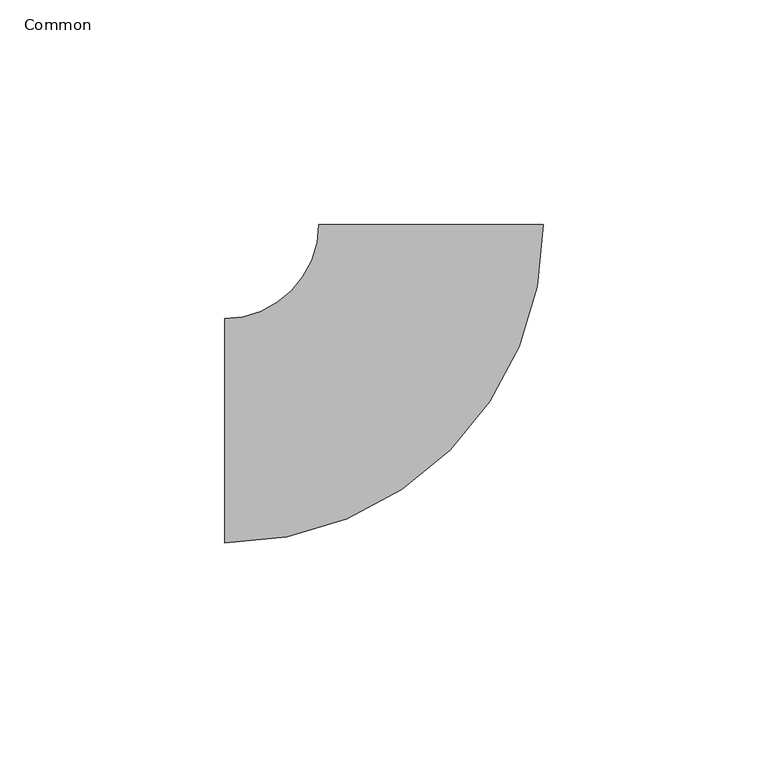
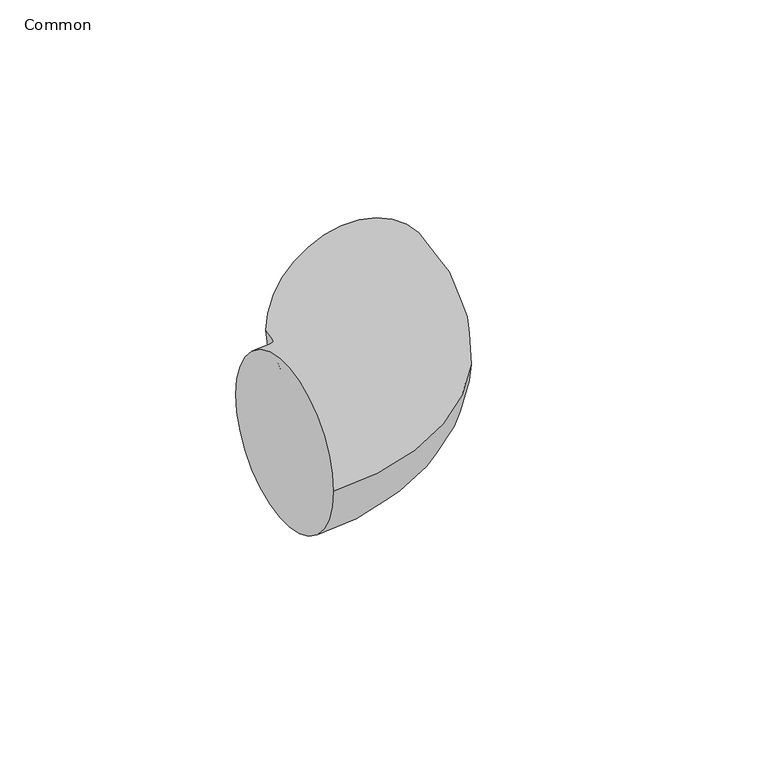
"""IFC4 building model written with IfcOpenShell, lengths in millimetres: pipe fitting geometry, 011_エルボ : Common."""

from ifc_helpers import new_model, si_unit, point, frame, origin, place, context, project, spatial, circle_curve, ellipse_curve, trimmed, source, transform, mapped, element, save
from ifc_brep_helpers import plane_surface, revolved_surface, advanced_brep


def common_ebbcb540(model_context):
    return source(origin(), model_context, "Body", "AdvancedBrep", [
        advanced_brep(
        [(-46.0, -25.0, 0.0), (-46.0, 25.0, 0.0), (25.0, 46.0, 0.0), (-25.0, 46.0, 0.0)],
        [
            (0, 1, circle_curve(frame((-46.0, 0.0, 0.0), z_axis=(-1.0, 0.0, 0.0), x_axis=(0.0, 1.0, 0.0)), 25.0)),
            (1, 0, circle_curve(frame((-46.0, 0.0, 0.0), z_axis=(-1.0, 0.0, 0.0), x_axis=(0.0, 1.0, 0.0)), 25.0)),
            (2, 3, circle_curve(frame((0.0, 46.0, 0.0), z_axis=(0.0, 1.0, 0.0), x_axis=(-1.0, 0.0, 0.0)), 25.0)),
            (3, 2, circle_curve(frame((0.0, 46.0, 0.0), z_axis=(0.0, 1.0, 0.0), x_axis=(-1.0, 0.0, 0.0)), 25.0)),
            (3, 1, circle_curve(frame((-46.0, 46.0, 0.0), z_axis=(0.0, 0.0, -1.0), x_axis=(0.0, -1.0, 0.0)), 21.0)),
            (0, 2, circle_curve(frame((-46.0, 46.0, 0.0), z_axis=(0.0, 0.0, 1.0), x_axis=(0.0, -1.0, 0.0)), 71.0)),
        ],
        [
            plane_surface(frame((-46.0, 0.0, 0.0), z_axis=(-1.0, 0.0, 0.0), x_axis=(0.0, 0.0, 1.0))),
            plane_surface(frame((0.0, 46.0, 0.0), z_axis=(0.0, 1.0, 0.0), x_axis=(0.0, 0.0, 1.0))),
            revolved_surface(trimmed(ellipse_curve(frame((-46.0, 0.0, 0.0), z_axis=(-1.0, 0.0, 0.0), x_axis=(0.0, 1.0, 0.0)), 25.0, 25.0), [point((-46.0, -25.0, 0.0))], [point((-46.0, 25.0, 0.0))], True, "CARTESIAN"), (-46.0, 46.0, 0.0), (0.0, 0.0, 1.0)),
            revolved_surface(trimmed(ellipse_curve(frame((-46.0, 0.0, 0.0), z_axis=(-1.0, 0.0, 0.0), x_axis=(0.0, 1.0, 0.0)), 25.0, 25.0), [point((-46.0, 25.0, 0.0))], [point((-46.0, -25.0, 0.0))], True, "CARTESIAN"), (-46.0, 46.0, 0.0), (0.0, 0.0, 1.0)),
        ],
        [
            (0, [[1, 2]]),
            (1, [[3, 4]]),
            (2, [[5, -1, 6, -4]]),
            (3, [[-6, -2, -5, -3]]),
        ],
    ),
    ])


if __name__ == "__main__":
    model = new_model("IFC4")
    model_context = context("Model", 3, world=origin())
    ifc_project = project(units=[si_unit("LENGTHUNIT", "METRE", prefix="MILLI")], contexts=[model_context])
    site = spatial("IfcSite", under=ifc_project)
    building = spatial("IfcBuilding", under=site)
    placement = place(None, origin())
    common_shape = common_ebbcb540(model_context)
    element("IfcPipeFitting", 1, ObjectType="011_エルボ : Common", at=placement, inside=building, context=model_context, shape_type="MappedRepresentation", body=[
        mapped(common_shape, transform((0.0, 0.0, 0.0), x_axis=(1.0, 0.0, 0.0), y_axis=(0.0, 1.0, 0.0), z_axis=(0.0, 0.0, 1.0))),
    ])
    save(model, "model.ifc")
